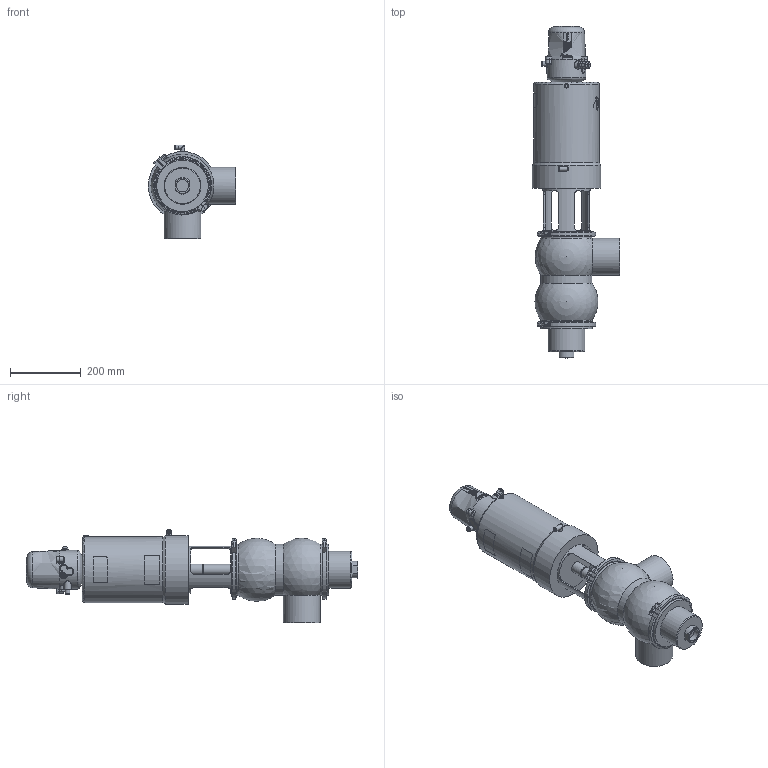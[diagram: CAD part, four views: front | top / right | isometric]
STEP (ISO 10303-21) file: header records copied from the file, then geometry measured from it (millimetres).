
FILE_DESCRIPTION (( 'STEP AP214' ), '1' );
FILE_NAME ('INNOVA S DB-90 W DIN 100 & C-TOP S_10.251.16.0018.STEP', '2024-08-19T10:16:04', ( '' ), ( '' ), 'SwSTEP 2.0', 'SolidWorks 2023', '' );
FILE_SCHEMA (( 'AUTOMOTIVE_DESIGN' ));
Length unit declared in the file: millimetre
Products named in the file (7): 10.240.15.0001_DN 100; 10.251.15.0002_DN 100; 10.251.15.0001_DN 100; 10.426.15.0001_C-TOP S - 1 EV; INNOVA S DB-90 W DIN 100 & C-TOP S_10.251.16.0018; 10.251.15.0010_DIN 100; 10.250.15.0002_Type S T3
Assembly tree (7 placements, depth 2):
  INNOVA S DB-90 W DIN 100 & C-TOP S_10.251.16.0018
    10.251.15.0001_DN 100
    10.250.15.0002_Type S T3
    10.426.15.0001_C-TOP S - 1 EV
    10.251.15.0010_DIN 100
    10.240.15.0001_DN 100  x2
    10.251.15.0002_DN 100
Bounding box: 246.5 x 936 x 265 mm (x, y, z)
Volume: 16321036.4 mm3; surface area: 826086.9 mm2
Topology: 7 solids, 7 shells, 1184 faces, 2868 edges, 1905 vertices
Faces by surface type: plane 412, cylinder 369, cone 202, bspline 160, torus 33, sphere 8
Full cylindrical faces by diameter (mm): 0.371 x17, 0.512 x16, 0.658 x16, 0.795 x16, 0.94 x15, 1.098 x15, 1.241 x13, 1.382 x13, 1.523 x11, 1.669 x10, 2.201 x1, 4.2 x2, 5 x1, 5.5 x2, 6 x3, 6.15 x1, 8 x5, 8.5 x1, 10 x1, 10.5 x2, 11 x2, 12.5 x6, 13 x2, 13.5 x2, 17 x3, 20 x2, 22 x2, 30.5 x1, 32 x1, 35 x1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
Entity records: 59237 total; most frequent: CARTESIAN_POINT 28518, ORIENTED_EDGE 4590, DIRECTION 3691, EDGE_CURVE 2295, VERTEX_POINT 1623, EDGE_LOOP 1574, AXIS2_PLACEMENT_3D 1506, FACE_OUTER_BOUND 1337
